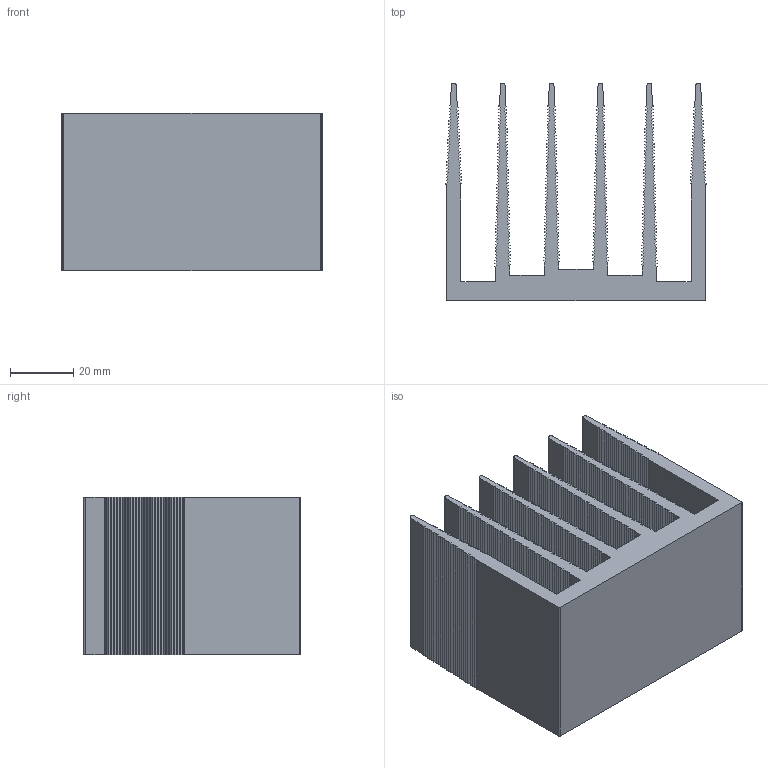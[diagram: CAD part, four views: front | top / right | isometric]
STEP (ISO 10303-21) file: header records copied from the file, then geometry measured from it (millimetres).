
FILE_DESCRIPTION (( 'STEP AP214' ), '1' );
FILE_NAME ('PR314.STEP', '2009-06-16T06:52:02', ( 'Alutronic' ), ( 'Alutronic' ), 'SwSTEP 2.0', 'SolidWorks 2009', '' );
FILE_SCHEMA (( 'AUTOMOTIVE_DESIGN' ));
Length unit declared in the file: millimetre
Products named in the file (1): PR314
Bounding box: 82.5 x 69 x 50 mm (x, y, z)
Volume: 91663.5 mm3; surface area: 58821.8 mm2
Topology: 1 solids, 1 shells, 1060 faces, 3174 edges, 2116 vertices
Faces by surface type: plane 1052, cylinder 8
Entity records: 34988 total; most frequent: CARTESIAN_POINT 6351, ORIENTED_EDGE 6348, DIRECTION 5312, EDGE_CURVE 3174, VECTOR 3158, LINE 3158, VERTEX_POINT 2116, AXIS2_PLACEMENT_3D 1077
